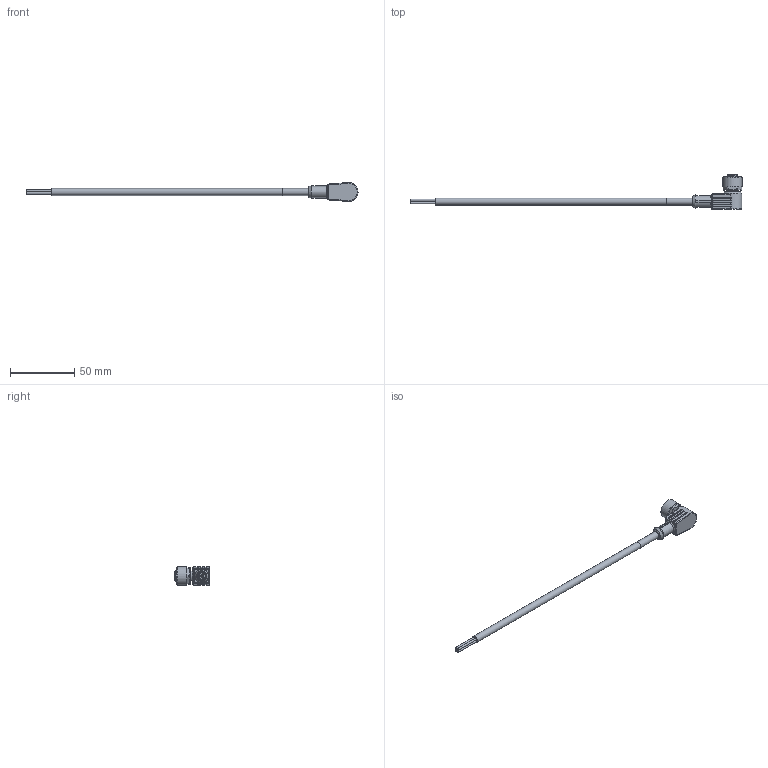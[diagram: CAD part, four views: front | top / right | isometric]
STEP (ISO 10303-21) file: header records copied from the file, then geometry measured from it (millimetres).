
FILE_DESCRIPTION(/* description */ (''),/* implementation_level */ '2;1');
FILE_NAME(/* name */ 'K15.00.stp',/* time_stamp */ '2020-02-10T16:13:11+01:00',/* author */ (''),/* organization */ (''),/* preprocessor_version */ 'ST-DEVELOPER v16',/* originating_system */ 'SIEMENS PLM Software NX 11.0',/* authorisation */ '');
FILE_SCHEMA (('AP203_CONFIGURATION_CONTROLLED_3D_DESIGN_OF_MECHANICAL_PARTS_AND_ASSEMBLIES_MIM_LF { 1 0 10303 403 2 1 2}'));
Length unit declared in the file: millimetre
Products named in the file (1): hi2n454CC6D1h6u5
Bounding box: 258.99 x 27 x 15 mm (x, y, z)
Volume: 11697.7 mm3; surface area: 7492.8 mm2
Topology: 2 solids, 2 shells, 128 faces, 300 edges, 189 vertices
Faces by surface type: plane 67, cylinder 42, cone 11, torus 4, sphere 4
Full cylindrical faces by diameter (mm): 1.2 x5, 1.5 x4, 4.8 x1, 5.5 x2, 8.2 x1, 8.5 x1, 10.5 x1, 11 x1, 14.7 x1, 15 x1
Entity records: 3585 total; most frequent: CARTESIAN_POINT 710, DIRECTION 602, ORIENTED_EDGE 520, EDGE_CURVE 260, AXIS2_PLACEMENT_3D 239, VERTEX_POINT 178, EDGE_LOOP 170, ADVANCED_FACE 128
